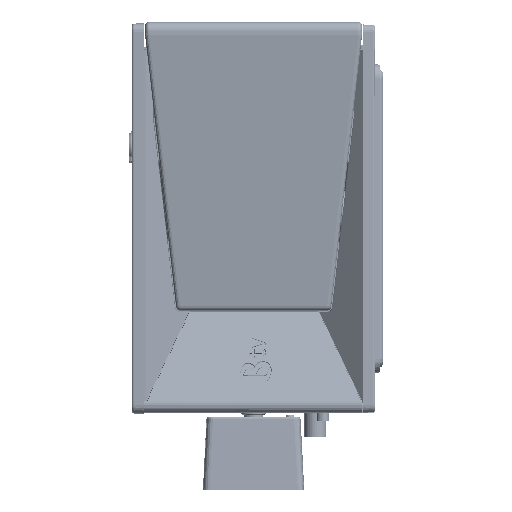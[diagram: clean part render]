
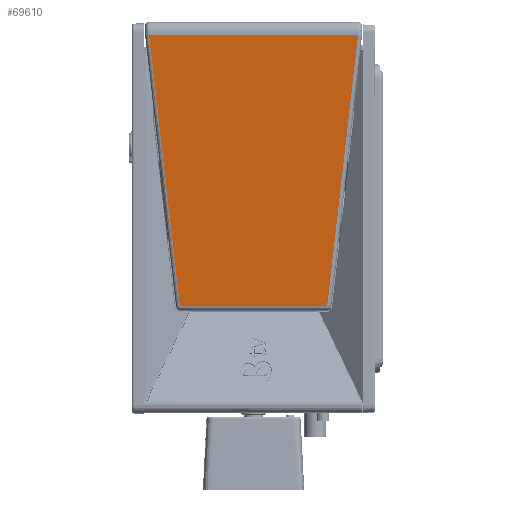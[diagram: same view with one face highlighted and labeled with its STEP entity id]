
A CAD part, left-side view. The second image highlights one B-rep face of the part: STEP entity #69610.
In plain terms, the highlighted planar face has unit normal (-0.994, 0, -0.11).
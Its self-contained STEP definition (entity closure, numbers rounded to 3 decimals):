
#66966=DIRECTION('',(0.,1.,0.));
#66967=VECTOR('',#66966,51.606);
#66968=CARTESIAN_POINT('',(-390.7,-25.803,
45.26));
#66969=LINE('',#66968,#66967);
#67644=CARTESIAN_POINT('',(-383.328,18.19,
-21.582));
#67646=DIRECTION('',(0.,-1.,0.));
#67647=VECTOR('',#67646,36.379);
#67648=CARTESIAN_POINT('',(-383.328,18.19,
-21.582));
#67649=LINE('',#67648,#67647);
#67661=DIRECTION('',(-0.109,0.112,0.988));
#67662=VECTOR('',#67661,67.677);
#67663=CARTESIAN_POINT('',(-383.328,18.19,
-21.582));
#67664=LINE('',#67663,#67662);
#67665=DIRECTION('',(0.109,0.112,-0.988));
#67666=VECTOR('',#67665,67.677);
#67667=CARTESIAN_POINT('',(-390.7,-25.803,
45.26));
#67668=LINE('',#67667,#67666);
#68157=CARTESIAN_POINT('',(-390.7,25.803,
45.26));
#68159=VERTEX_POINT('',#68157);
#68162=CARTESIAN_POINT('',(-390.7,-25.803,
45.26));
#68163=VERTEX_POINT('',#68162);
#68365=VERTEX_POINT('',#67644);
#68366=CARTESIAN_POINT('',(-383.328,-18.19,
-21.582));
#68367=VERTEX_POINT('',#68366);
#69597=CARTESIAN_POINT('',(-390.7,-26.8,45.26));
#69598=DIRECTION('',(0.994,0.,0.11));
#69599=DIRECTION('',(0.11,0.,-0.994));
#69600=AXIS2_PLACEMENT_3D('',#69597,#69598,#69599);
#69601=PLANE('',#69600);
#69603=ORIENTED_EDGE('',*,*,#69602,.T.);
#69604=ORIENTED_EDGE('',*,*,#68454,.F.);
#69606=ORIENTED_EDGE('',*,*,#69605,.T.);
#69607=ORIENTED_EDGE('',*,*,#69588,.F.);
#69608=EDGE_LOOP('',(#69603,#69604,#69606,#69607));
#69609=FACE_OUTER_BOUND('',#69608,.F.);
#69610=ADVANCED_FACE('',(#69609),#69601,.F.);
#68454=EDGE_CURVE('',#68163,#68159,#66969,.T.);
#69588=EDGE_CURVE('',#68365,#68367,#67649,.T.);
#69602=EDGE_CURVE('',#68365,#68159,#67664,.T.);
#69605=EDGE_CURVE('',#68163,#68367,#67668,.T.);
